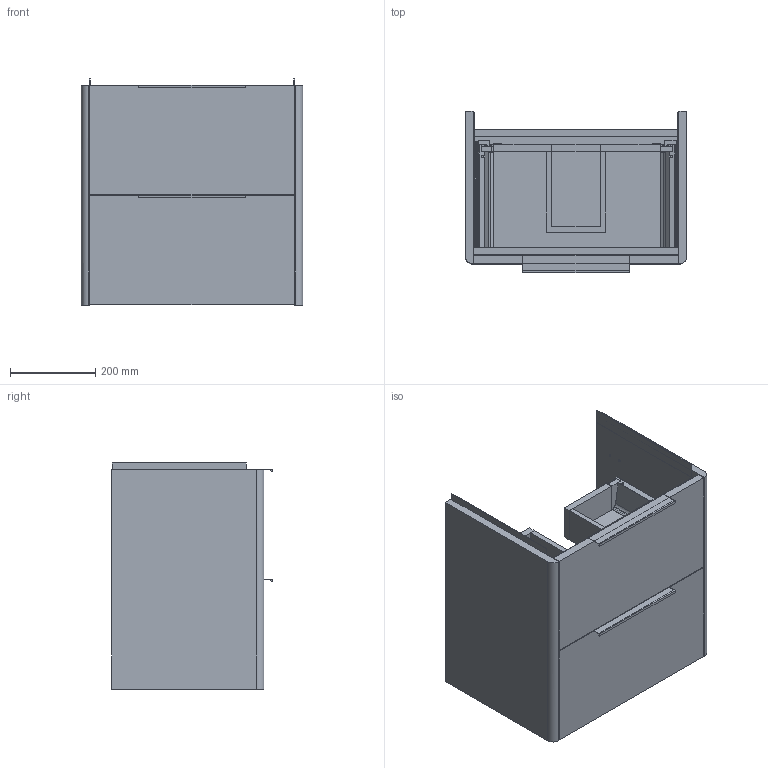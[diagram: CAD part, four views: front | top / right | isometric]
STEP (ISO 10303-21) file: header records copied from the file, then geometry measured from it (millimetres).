
FILE_DESCRIPTION(/* description */ (''),/* implementation_level */ '2;1');
FILE_NAME(/* name */ '3D273A~1',/* time_stamp */ '2018-05-07T13:13:50+02:00',/* author */ (''),/* organization */ (''),/* preprocessor_version */ 'ST-DEVELOPER v15',/* originating_system */ '',/* authorisation */ '');
FILE_SCHEMA (('AUTOMOTIVE_DESIGN'));
Length unit declared in the file: millimetre
Products named in the file (23): Document; 270-84_MIR; 270-84_1_MIR; 270-84_2_MIR; 270-84_3_MIR; 270-84; 270-84_1; 270-84_2; 270-84_3; maniglia inferiore; Maniglia superiore; Frontale cassetto inferiore; Retro_cassetto inferiore; Fascia rialzo; Retro cassetto superiore; Fondo cassetto inferiore; Fondo cassetto superiore; Fondo mobile; Fianco dx; Fianco sx; Catena inferiore; Frontale cassetto superiore; Catena_superiore
Assembly tree (24 placements, depth 3):
  Document
    270-84_MIR  x2
      270-84_1_MIR
      270-84_2_MIR
      270-84_3_MIR
    270-84  x2
      270-84_1
      270-84_2
      270-84_3
    maniglia inferiore
    Maniglia superiore
    Frontale cassetto inferiore
    Retro_cassetto inferiore
    Fascia rialzo
    Retro cassetto superiore
    Fondo cassetto inferiore
    Fondo cassetto superiore
    Fondo mobile
    Fianco dx
    Fianco sx
    Catena inferiore
    Frontale cassetto superiore
    Catena_superiore
Bounding box: 520 x 378.1 x 531 mm (x, y, z)
Volume: 21147189.7 mm3; surface area: 3175181.6 mm2
Topology: 28 solids, 28 shells, 1023 faces, 3017 edges, 2086 vertices
Faces by surface type: plane 776, bspline 247
Entity records: 19032 total; most frequent: CARTESIAN_POINT 7431, ORIENTED_EDGE 3346, EDGE_CURVE 1673, B_SPLINE_CURVE_WITH_KNOTS 1271, VERTEX_POINT 1158, EDGE_LOOP 663, DIRECTION 582, ADVANCED_FACE 581
